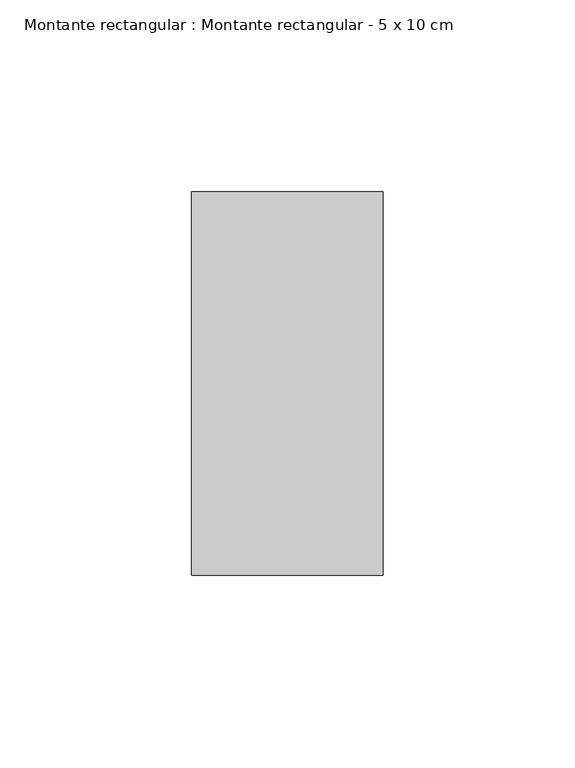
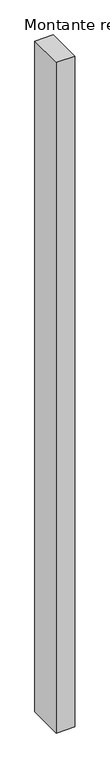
"""IFC4 building model written with IfcOpenShell, lengths in millimetres: member geometry, Montante rectangular : Montante rectangular - 5 x 10 cm."""

from ifc_helpers import new_model, si_unit, frame, origin, place, context, project, spatial, polyline, outline, extrude, source, transform, mapped, element, save


def montante_rectangular_montante_rectangular_5_x_10_cm_4a662251(model_context):
    return source(origin(), model_context, "Body", "SweptSolid", [
        extrude(outline(polyline([(0.0, 50.0), (0.0, -50.0), (-50.0, -50.0), (-50.0, 50.0), (0.0, 50.0)])), frame((0.0, 0.0, -1920.0), z_axis=(0.0, 0.0, 1.0), x_axis=(1.0, 0.0, 0.0)), (0.0, 0.0, 1.0), 1920.0),
    ])


if __name__ == "__main__":
    model = new_model("IFC4")
    model_context = context("Model", 3, world=origin())
    ifc_project = project(units=[si_unit("LENGTHUNIT", "METRE", prefix="MILLI")], contexts=[model_context])
    site = spatial("IfcSite", under=ifc_project)
    building = spatial("IfcBuilding", under=site)
    placement = place(None, origin())
    montante_rectangular_montante_rectangular_5_x_10_cm_shape = montante_rectangular_montante_rectangular_5_x_10_cm_4a662251(model_context)
    element("IfcMember", 1, ObjectType="Montante rectangular : Montante rectangular - 5 x 10 cm", at=placement, inside=building, context=model_context, shape_type="MappedRepresentation", body=[
        mapped(montante_rectangular_montante_rectangular_5_x_10_cm_shape, transform((0.0, 0.0, 0.0), x_axis=(1.0, 0.0, 0.0), y_axis=(0.0, 1.0, 0.0), z_axis=(0.0, 0.0, 1.0))),
    ])
    save(model, "model.ifc")
